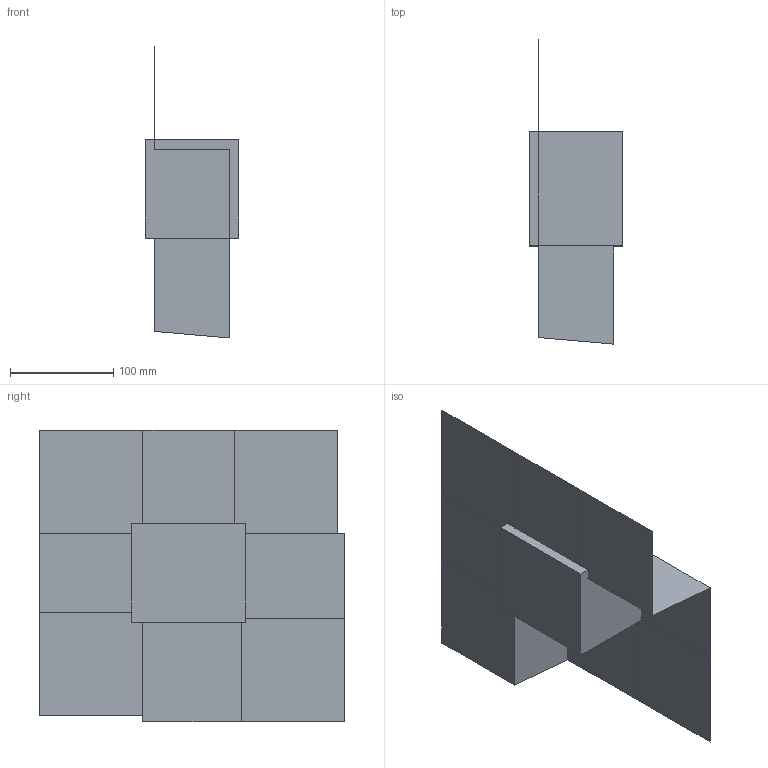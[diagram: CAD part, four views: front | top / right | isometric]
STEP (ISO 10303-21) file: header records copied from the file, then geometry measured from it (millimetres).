
FILE_DESCRIPTION(('CATIA V5 STEP Exchange'),'2;1');
FILE_NAME('C:\_Andres\UNIVERSIDAD\IQS\ASIGNATURAS\DAO\EXF\EXF-15161c\1original\Aloguín_Serramia_Ej02-moldes_v1.stp','2016-03-04T15:45:31+00:00',('none'),('none'),'CATIA Version 5 Release 20 SP 1 (IN-10)','CATIA V5 STEP AP203','none');
FILE_SCHEMA(('CONFIG_CONTROL_DESIGN'));
Length unit declared in the file: millimetre
Products named in the file (1): Aloguín_Serramia_Ej02-moldes_v1
Bounding box: 91 x 295.17 x 283.17 mm (x, y, z)
Volume: 2065740.6 mm3; surface area: 286254.7 mm2
Topology: 3 solids, 7 shells, 45 faces, 118 edges, 83 vertices
Faces by surface type: plane 41, cylinder 4
Entity records: 1101 total; most frequent: ORIENTED_EDGE 198, CARTESIAN_POINT 179, DIRECTION 147, EDGE_CURVE 83, VECTOR 73, LINE 73, VERTEX_POINT 56, EDGE_LOOP 49
